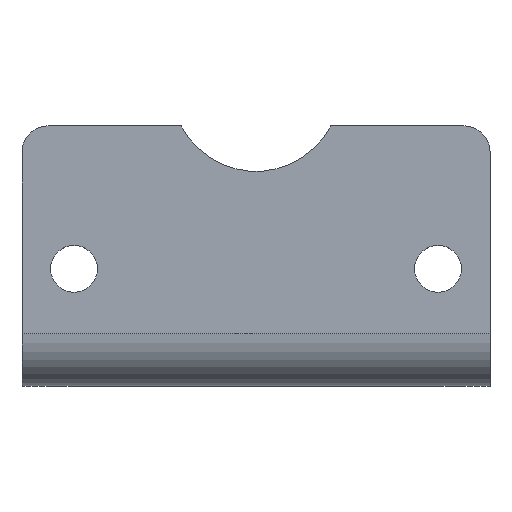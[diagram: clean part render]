
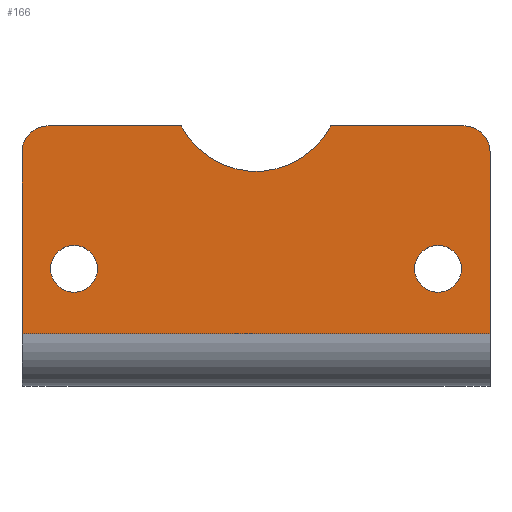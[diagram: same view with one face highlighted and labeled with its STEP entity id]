
A CAD part, top view. The second image highlights one B-rep face of the part: STEP entity #166.
In plain terms, the highlighted planar face has unit normal (0, 0, 1).
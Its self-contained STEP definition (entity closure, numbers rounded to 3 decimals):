
#25 = DIRECTION ( 'NONE',  ( 0., 1., 0. ) ) ;
#102 = VERTEX_POINT ( 'NONE', #339 ) ;
#111 = VERTEX_POINT ( 'NONE', #410 ) ;
#113 = EDGE_CURVE ( 'NONE', #111, #114, #409, .T. ) ;
#114 = VERTEX_POINT ( 'NONE', #404 ) ;
#116 = EDGE_LOOP ( 'NONE', ( #165, #231 ) ) ;
#122 = ORIENTED_EDGE ( 'NONE', *, *, #232, .F. ) ;
#123 = EDGE_LOOP ( 'NONE', ( #122, #233 ) ) ;
#131 = ORIENTED_EDGE ( 'NONE', *, *, #132, .T. ) ;
#132 = EDGE_CURVE ( 'NONE', #133, #134, #516, .T. ) ;
#133 = VERTEX_POINT ( 'NONE', #512 ) ;
#134 = VERTEX_POINT ( 'NONE', #511 ) ;
#135 = ORIENTED_EDGE ( 'NONE', *, *, #136, .T. ) ;
#136 = EDGE_CURVE ( 'NONE', #134, #137, #510, .T. ) ;
#137 = VERTEX_POINT ( 'NONE', #506 ) ;
#138 = ORIENTED_EDGE ( 'NONE', *, *, #139, .F. ) ;
#139 = EDGE_CURVE ( 'NONE', #140, #137, #505, .T. ) ;
#140 = VERTEX_POINT ( 'NONE', #501 ) ;
#141 = ORIENTED_EDGE ( 'NONE', *, *, #142, .T. ) ;
#142 = EDGE_CURVE ( 'NONE', #140, #183, #500, .T. ) ;
#143 = ORIENTED_EDGE ( 'NONE', *, *, #180, .T. ) ;
#144 = ORIENTED_EDGE ( 'NONE', *, *, #159, .F. ) ;
#159 = EDGE_CURVE ( 'NONE', #164, #182, #427, .T. ) ;
#160 = ORIENTED_EDGE ( 'NONE', *, *, #163, .T. ) ;
#161 = ORIENTED_EDGE ( 'NONE', *, *, #162, .T. ) ;
#162 = EDGE_CURVE ( 'NONE', #167, #133, #422, .T. ) ;
#163 = EDGE_CURVE ( 'NONE', #164, #167, #627, .T. ) ;
#164 = VERTEX_POINT ( 'NONE', #669 ) ;
#165 = ORIENTED_EDGE ( 'NONE', *, *, #188, .F. ) ;
#166 = ADVANCED_FACE ( 'NONE', ( #664, #671, #670 ), #620, .F. ) ;
#167 = VERTEX_POINT ( 'NONE', #621 ) ;
#180 = EDGE_CURVE ( 'NONE', #183, #182, #674, .T. ) ;
#182 = VERTEX_POINT ( 'NONE', #623 ) ;
#183 = VERTEX_POINT ( 'NONE', #622 ) ;
#188 = EDGE_CURVE ( 'NONE', #114, #111, #706, .T. ) ;
#231 = ORIENTED_EDGE ( 'NONE', *, *, #113, .F. ) ;
#232 = EDGE_CURVE ( 'NONE', #248, #102, #594, .T. ) ;
#233 = ORIENTED_EDGE ( 'NONE', *, *, #247, .F. ) ;
#234 = EDGE_LOOP ( 'NONE', ( #131, #135, #138, #141, #143, #144, #160, #161 ) ) ;
#247 = EDGE_CURVE ( 'NONE', #102, #248, #727, .T. ) ;
#248 = VERTEX_POINT ( 'NONE', #722 ) ;
#339 = CARTESIAN_POINT ( 'NONE',  ( 11., 45., 0. ) ) ;
#404 = CARTESIAN_POINT ( 'NONE',  ( 169., 45., 0. ) ) ;
#405 = DIRECTION ( 'NONE',  ( 1., 0., 0. ) ) ;
#406 = DIRECTION ( 'NONE',  ( 0., 0., 1. ) ) ;
#407 = CARTESIAN_POINT ( 'NONE',  ( 160., 45., 0. ) ) ;
#408 = AXIS2_PLACEMENT_3D ( 'NONE', #407, #406, #405 ) ;
#409 = CIRCLE ( 'NONE', #408, 9. ) ;
#410 = CARTESIAN_POINT ( 'NONE',  ( 151., 45., 0. ) ) ;
#419 = DIRECTION ( 'NONE',  ( 0., 0., 1. ) ) ;
#420 = CARTESIAN_POINT ( 'NONE',  ( 10., 90., 0. ) ) ;
#421 = AXIS2_PLACEMENT_3D ( 'NONE', #420, #419, #25 ) ;
#422 = CIRCLE ( 'NONE', #421, 10. ) ;
#423 = DIRECTION ( 'NONE',  ( 1., 0., 0. ) ) ;
#424 = DIRECTION ( 'NONE',  ( 0., 0., 1. ) ) ;
#425 = CARTESIAN_POINT ( 'NONE',  ( 90., 115., 0. ) ) ;
#426 = AXIS2_PLACEMENT_3D ( 'NONE', #425, #424, #423 ) ;
#427 = CIRCLE ( 'NONE', #426, 32.5 ) ;
#496 = DIRECTION ( 'NONE',  ( 0., 1., 0. ) ) ;
#497 = DIRECTION ( 'NONE',  ( 0., 0., 1. ) ) ;
#498 = CARTESIAN_POINT ( 'NONE',  ( 170., 90., 0. ) ) ;
#499 = AXIS2_PLACEMENT_3D ( 'NONE', #498, #497, #496 ) ;
#500 = CIRCLE ( 'NONE', #499, 10. ) ;
#501 = CARTESIAN_POINT ( 'NONE',  ( 180., 90., 0. ) ) ;
#502 = DIRECTION ( 'NONE',  ( 0., -1., 0. ) ) ;
#503 = VECTOR ( 'NONE', #502, 1000. ) ;
#504 = CARTESIAN_POINT ( 'NONE',  ( 180., 100., 0. ) ) ;
#505 = LINE ( 'NONE', #504, #503 ) ;
#506 = CARTESIAN_POINT ( 'NONE',  ( 180., 20., 0. ) ) ;
#507 = DIRECTION ( 'NONE',  ( 1., 0., 0. ) ) ;
#508 = VECTOR ( 'NONE', #507, 1000. ) ;
#509 = CARTESIAN_POINT ( 'NONE',  ( 180., 20., 0. ) ) ;
#510 = LINE ( 'NONE', #509, #508 ) ;
#511 = CARTESIAN_POINT ( 'NONE',  ( 0., 20., 0. ) ) ;
#512 = CARTESIAN_POINT ( 'NONE',  ( 0., 90., 0. ) ) ;
#513 = DIRECTION ( 'NONE',  ( 0., -1., 0. ) ) ;
#514 = VECTOR ( 'NONE', #513, 1000. ) ;
#515 = CARTESIAN_POINT ( 'NONE',  ( 0., 100., 0. ) ) ;
#516 = LINE ( 'NONE', #515, #514 ) ;
#587 = DIRECTION ( 'NONE',  ( 1., 0., 0. ) ) ;
#588 = DIRECTION ( 'NONE',  ( 0., 0., 1. ) ) ;
#589 = CARTESIAN_POINT ( 'NONE',  ( 20., 45., 0. ) ) ;
#590 = AXIS2_PLACEMENT_3D ( 'NONE', #589, #588, #587 ) ;
#594 = CIRCLE ( 'NONE', #590, 9. ) ;
#613 = DIRECTION ( 'NONE',  ( 0., 1., 0. ) ) ;
#614 = DIRECTION ( 'NONE',  ( 0., 0., -1. ) ) ;
#615 = AXIS2_PLACEMENT_3D ( 'NONE', #619, #614, #613 ) ;
#619 = CARTESIAN_POINT ( 'NONE',  ( 180., 100., 0. ) ) ;
#620 = PLANE ( 'NONE',  #615 ) ;
#621 = CARTESIAN_POINT ( 'NONE',  ( 10., 100., 0. ) ) ;
#622 = CARTESIAN_POINT ( 'NONE',  ( 170., 100., 0. ) ) ;
#623 = CARTESIAN_POINT ( 'NONE',  ( 118.831, 100., 0. ) ) ;
#625 = DIRECTION ( 'NONE',  ( -1., 0., 0. ) ) ;
#626 = VECTOR ( 'NONE', #625, 1000. ) ;
#627 = LINE ( 'NONE', #665, #666 ) ;
#660 = DIRECTION ( 'NONE',  ( 1., 0., 0. ) ) ;
#661 = DIRECTION ( 'NONE',  ( 0., 0., 1. ) ) ;
#662 = CARTESIAN_POINT ( 'NONE',  ( 160., 45., 0. ) ) ;
#663 = AXIS2_PLACEMENT_3D ( 'NONE', #662, #661, #660 ) ;
#664 = FACE_BOUND ( 'NONE', #116, .T. ) ;
#665 = CARTESIAN_POINT ( 'NONE',  ( 180., 100., 0. ) ) ;
#666 = VECTOR ( 'NONE', #672, 1000. ) ;
#669 = CARTESIAN_POINT ( 'NONE',  ( 61.169, 100., 0. ) ) ;
#670 = FACE_OUTER_BOUND ( 'NONE', #234, .T. ) ;
#671 = FACE_BOUND ( 'NONE', #123, .T. ) ;
#672 = DIRECTION ( 'NONE',  ( -1., 0., 0. ) ) ;
#673 = CARTESIAN_POINT ( 'NONE',  ( 180., 100., 0. ) ) ;
#674 = LINE ( 'NONE', #673, #626 ) ;
#706 = CIRCLE ( 'NONE', #663, 9. ) ;
#722 = CARTESIAN_POINT ( 'NONE',  ( 29., 45., 0. ) ) ;
#723 = DIRECTION ( 'NONE',  ( 1., 0., 0. ) ) ;
#724 = DIRECTION ( 'NONE',  ( 0., 0., 1. ) ) ;
#725 = CARTESIAN_POINT ( 'NONE',  ( 20., 45., 0. ) ) ;
#726 = AXIS2_PLACEMENT_3D ( 'NONE', #725, #724, #723 ) ;
#727 = CIRCLE ( 'NONE', #726, 9. ) ;
